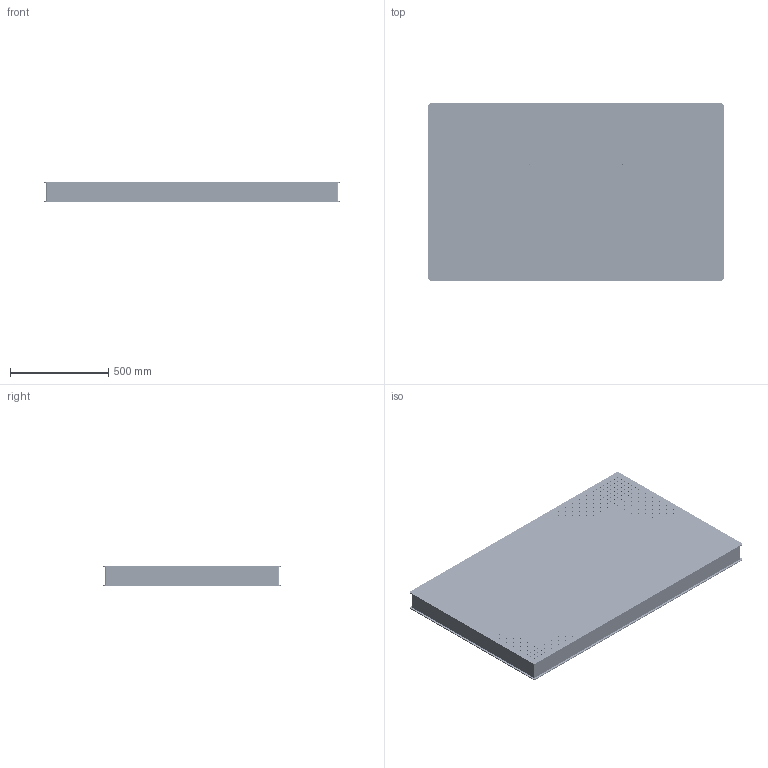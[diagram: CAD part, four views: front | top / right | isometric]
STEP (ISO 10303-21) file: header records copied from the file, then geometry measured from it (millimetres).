
FILE_DESCRIPTION (( 'STEP AP203' ), '1' );
FILE_NAME ('OTBB915-100 怢醱.STEP', '2019-05-09T08:52:24', ( 'User' ), ( 'User' ), 'SwSTEP 2.0', 'SolidWorks 2016', '' );
FILE_SCHEMA (( 'CONFIG_CONTROL_DESIGN' ));
Products named in the file (1): OTBB915-100 怢醱
Bounding box: 1500 x 900 x 100 mm (x, y, z)
Surface area: 6166573.7 mm2 (no closed solid volume)
Topology: 0 solids, 32 shells, 3934 faces, 12404 edges, 8504 vertices
Faces by surface type: cylinder 3872, plane 62
Entity records: 150904 total; most frequent: DIRECTION 28402, CARTESIAN_POINT 24843, ORIENTED_EDGE 24056, EDGE_CURVE 12404, AXIS2_PLACEMENT_3D 12063, VERTEX_POINT 8504, CIRCLE 8128, EDGE_LOOP 7986
